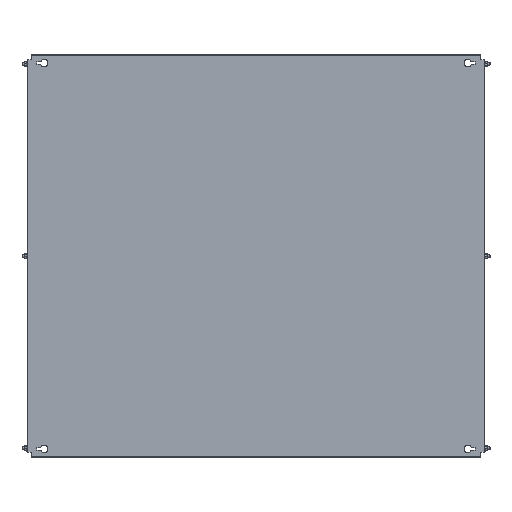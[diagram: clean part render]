
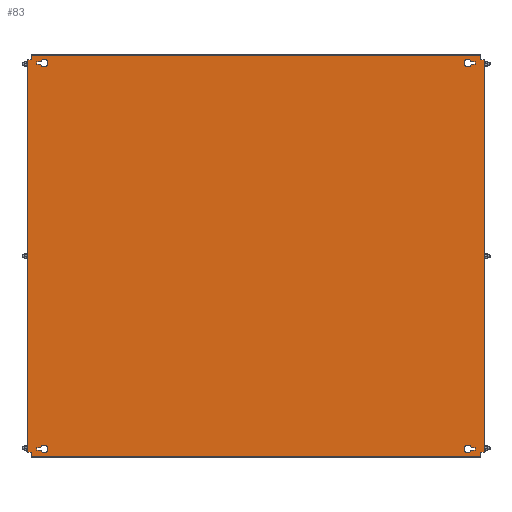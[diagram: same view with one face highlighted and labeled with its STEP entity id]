
A CAD part, top view. The second image highlights one B-rep face of the part: STEP entity #83.
In plain terms, the highlighted planar face has unit normal (0, 0, 1).
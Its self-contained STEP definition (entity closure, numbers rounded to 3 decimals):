
#83 = ADVANCED_FACE('',(#84,#119,#154,#316,#351),#386,.T.);
#84 = FACE_BOUND('',#85,.T.);
#85 = EDGE_LOOP('',(#86,#96,#104,#112));
#86 = ORIENTED_EDGE('',*,*,#87,.T.);
#87 = EDGE_CURVE('',#88,#90,#92,.T.);
#88 = VERTEX_POINT('',#89);
#89 = CARTESIAN_POINT('',(518.393,467.75,2.5));
#90 = VERTEX_POINT('',#91);
#91 = CARTESIAN_POINT('',(528.,467.75,2.5));
#92 = LINE('',#93,#94);
#93 = CARTESIAN_POINT('',(527.,467.75,2.5));
#94 = VECTOR('',#95,1.);
#95 = DIRECTION('',(1.,0.,0.));
#96 = ORIENTED_EDGE('',*,*,#97,.T.);
#97 = EDGE_CURVE('',#90,#98,#100,.T.);
#98 = VERTEX_POINT('',#99);
#99 = CARTESIAN_POINT('',(528.,461.25,2.5));
#100 = LINE('',#101,#102);
#101 = CARTESIAN_POINT('',(528.,467.75,2.5));
#102 = VECTOR('',#103,1.);
#103 = DIRECTION('',(0.,-1.,0.));
#104 = ORIENTED_EDGE('',*,*,#105,.T.);
#105 = EDGE_CURVE('',#98,#106,#108,.T.);
#106 = VERTEX_POINT('',#107);
#107 = CARTESIAN_POINT('',(518.393,461.25,2.5));
#108 = LINE('',#109,#110);
#109 = CARTESIAN_POINT('',(527.,461.25,2.5));
#110 = VECTOR('',#111,1.);
#111 = DIRECTION('',(-1.,0.,0.));
#112 = ORIENTED_EDGE('',*,*,#113,.T.);
#113 = EDGE_CURVE('',#106,#88,#114,.T.);
#114 = CIRCLE('',#115,9.);
#115 = AXIS2_PLACEMENT_3D('',#116,#117,#118);
#116 = CARTESIAN_POINT('',(510.,464.5,2.5));
#117 = DIRECTION('',(0.,0.,-1.));
#118 = DIRECTION('',(1.,0.,0.));
#119 = FACE_BOUND('',#120,.T.);
#120 = EDGE_LOOP('',(#121,#131,#139,#147));
#121 = ORIENTED_EDGE('',*,*,#122,.T.);
#122 = EDGE_CURVE('',#123,#125,#127,.T.);
#123 = VERTEX_POINT('',#124);
#124 = CARTESIAN_POINT('',(-518.393,-467.75,2.5));
#125 = VERTEX_POINT('',#126);
#126 = CARTESIAN_POINT('',(-528.,-467.75,2.5));
#127 = LINE('',#128,#129);
#128 = CARTESIAN_POINT('',(-527.,-467.75,2.5));
#129 = VECTOR('',#130,1.);
#130 = DIRECTION('',(-1.,0.,0.));
#131 = ORIENTED_EDGE('',*,*,#132,.T.);
#132 = EDGE_CURVE('',#125,#133,#135,.T.);
#133 = VERTEX_POINT('',#134);
#134 = CARTESIAN_POINT('',(-528.,-461.25,2.5));
#135 = LINE('',#136,#137);
#136 = CARTESIAN_POINT('',(-528.,-467.75,2.5));
#137 = VECTOR('',#138,1.);
#138 = DIRECTION('',(0.,1.,0.));
#139 = ORIENTED_EDGE('',*,*,#140,.T.);
#140 = EDGE_CURVE('',#133,#141,#143,.T.);
#141 = VERTEX_POINT('',#142);
#142 = CARTESIAN_POINT('',(-518.393,-461.25,2.5));
#143 = LINE('',#144,#145);
#144 = CARTESIAN_POINT('',(-527.,-461.25,2.5));
#145 = VECTOR('',#146,1.);
#146 = DIRECTION('',(1.,-0.,-0.));
#147 = ORIENTED_EDGE('',*,*,#148,.T.);
#148 = EDGE_CURVE('',#141,#123,#149,.T.);
#149 = CIRCLE('',#150,9.);
#150 = AXIS2_PLACEMENT_3D('',#151,#152,#153);
#151 = CARTESIAN_POINT('',(-510.,-464.5,2.5));
#152 = DIRECTION('',(0.,0.,-1.));
#153 = DIRECTION('',(-1.,0.,0.));
#154 = FACE_BOUND('',#155,.T.);
#155 = EDGE_LOOP('',(#156,#166,#174,#182,#190,#198,#206,#214,#222,#230,
    #238,#246,#254,#262,#270,#278,#286,#294,#302,#310));
#156 = ORIENTED_EDGE('',*,*,#157,.F.);
#157 = EDGE_CURVE('',#158,#160,#162,.T.);
#158 = VERTEX_POINT('',#159);
#159 = CARTESIAN_POINT('',(-546.9,472.5,2.5));
#160 = VERTEX_POINT('',#161);
#161 = CARTESIAN_POINT('',(-541.5,472.5,2.5));
#162 = LINE('',#163,#164);
#163 = CARTESIAN_POINT('',(-547.5,472.5,2.5));
#164 = VECTOR('',#165,1.);
#165 = DIRECTION('',(1.,0.,-0.));
#166 = ORIENTED_EDGE('',*,*,#167,.T.);
#167 = EDGE_CURVE('',#158,#168,#170,.T.);
#168 = VERTEX_POINT('',#169);
#169 = CARTESIAN_POINT('',(-550.,472.5,2.5));
#170 = LINE('',#171,#172);
#171 = CARTESIAN_POINT('',(-546.9,472.5,2.5));
#172 = VECTOR('',#173,1.);
#173 = DIRECTION('',(-1.,0.,0.));
#174 = ORIENTED_EDGE('',*,*,#175,.F.);
#175 = EDGE_CURVE('',#176,#168,#178,.T.);
#176 = VERTEX_POINT('',#177);
#177 = CARTESIAN_POINT('',(-550.,-472.5,2.5));
#178 = LINE('',#179,#180);
#179 = CARTESIAN_POINT('',(-550.,-482.,2.5));
#180 = VECTOR('',#181,1.);
#181 = DIRECTION('',(0.,1.,-0.));
#182 = ORIENTED_EDGE('',*,*,#183,.F.);
#183 = EDGE_CURVE('',#184,#176,#186,.T.);
#184 = VERTEX_POINT('',#185);
#185 = CARTESIAN_POINT('',(-546.9,-472.5,2.5));
#186 = LINE('',#187,#188);
#187 = CARTESIAN_POINT('',(-541.5,-472.5,2.5));
#188 = VECTOR('',#189,1.);
#189 = DIRECTION('',(-1.,-0.,-0.));
#190 = ORIENTED_EDGE('',*,*,#191,.T.);
#191 = EDGE_CURVE('',#184,#192,#194,.T.);
#192 = VERTEX_POINT('',#193);
#193 = CARTESIAN_POINT('',(-541.5,-472.5,2.5));
#194 = LINE('',#195,#196);
#195 = CARTESIAN_POINT('',(-547.5,-472.5,2.5));
#196 = VECTOR('',#197,1.);
#197 = DIRECTION('',(1.,0.,-0.));
#198 = ORIENTED_EDGE('',*,*,#199,.T.);
#199 = EDGE_CURVE('',#192,#200,#202,.T.);
#200 = VERTEX_POINT('',#201);
#201 = CARTESIAN_POINT('',(-541.5,-481.4,2.5));
#202 = LINE('',#203,#204);
#203 = CARTESIAN_POINT('',(-541.5,482.,2.5));
#204 = VECTOR('',#205,1.);
#205 = DIRECTION('',(0.,-1.,0.));
#206 = ORIENTED_EDGE('',*,*,#207,.T.);
#207 = EDGE_CURVE('',#200,#208,#210,.T.);
#208 = VERTEX_POINT('',#209);
#209 = CARTESIAN_POINT('',(-541.5,-482.,2.5));
#210 = LINE('',#211,#212);
#211 = CARTESIAN_POINT('',(-541.5,-481.4,2.5));
#212 = VECTOR('',#213,1.);
#213 = DIRECTION('',(-0.,-1.,-0.));
#214 = ORIENTED_EDGE('',*,*,#215,.T.);
#215 = EDGE_CURVE('',#208,#216,#218,.T.);
#216 = VERTEX_POINT('',#217);
#217 = CARTESIAN_POINT('',(541.5,-482.,2.5));
#218 = LINE('',#219,#220);
#219 = CARTESIAN_POINT('',(541.5,-482.,2.5));
#220 = VECTOR('',#221,1.);
#221 = DIRECTION('',(1.,0.,0.));
#222 = ORIENTED_EDGE('',*,*,#223,.F.);
#223 = EDGE_CURVE('',#224,#216,#226,.T.);
#224 = VERTEX_POINT('',#225);
#225 = CARTESIAN_POINT('',(541.5,-481.4,2.5));
#226 = LINE('',#227,#228);
#227 = CARTESIAN_POINT('',(541.5,-482.,2.5));
#228 = VECTOR('',#229,1.);
#229 = DIRECTION('',(0.,-1.,0.));
#230 = ORIENTED_EDGE('',*,*,#231,.T.);
#231 = EDGE_CURVE('',#224,#232,#234,.T.);
#232 = VERTEX_POINT('',#233);
#233 = CARTESIAN_POINT('',(541.5,-472.5,2.5));
#234 = LINE('',#235,#236);
#235 = CARTESIAN_POINT('',(541.5,482.,2.5));
#236 = VECTOR('',#237,1.);
#237 = DIRECTION('',(0.,1.,-0.));
#238 = ORIENTED_EDGE('',*,*,#239,.F.);
#239 = EDGE_CURVE('',#240,#232,#242,.T.);
#240 = VERTEX_POINT('',#241);
#241 = CARTESIAN_POINT('',(546.9,-472.5,2.5));
#242 = LINE('',#243,#244);
#243 = CARTESIAN_POINT('',(547.5,-472.5,2.5));
#244 = VECTOR('',#245,1.);
#245 = DIRECTION('',(-1.,0.,-0.));
#246 = ORIENTED_EDGE('',*,*,#247,.T.);
#247 = EDGE_CURVE('',#240,#248,#250,.T.);
#248 = VERTEX_POINT('',#249);
#249 = CARTESIAN_POINT('',(550.,-472.5,2.5));
#250 = LINE('',#251,#252);
#251 = CARTESIAN_POINT('',(546.9,-472.5,2.5));
#252 = VECTOR('',#253,1.);
#253 = DIRECTION('',(1.,0.,0.));
#254 = ORIENTED_EDGE('',*,*,#255,.F.);
#255 = EDGE_CURVE('',#256,#248,#258,.T.);
#256 = VERTEX_POINT('',#257);
#257 = CARTESIAN_POINT('',(550.,472.5,2.5));
#258 = LINE('',#259,#260);
#259 = CARTESIAN_POINT('',(550.,-482.,2.5));
#260 = VECTOR('',#261,1.);
#261 = DIRECTION('',(0.,-1.,-0.));
#262 = ORIENTED_EDGE('',*,*,#263,.F.);
#263 = EDGE_CURVE('',#264,#256,#266,.T.);
#264 = VERTEX_POINT('',#265);
#265 = CARTESIAN_POINT('',(546.9,472.5,2.5));
#266 = LINE('',#267,#268);
#267 = CARTESIAN_POINT('',(-541.5,472.5,2.5));
#268 = VECTOR('',#269,1.);
#269 = DIRECTION('',(1.,-0.,-0.));
#270 = ORIENTED_EDGE('',*,*,#271,.T.);
#271 = EDGE_CURVE('',#264,#272,#274,.T.);
#272 = VERTEX_POINT('',#273);
#273 = CARTESIAN_POINT('',(541.5,472.5,2.5));
#274 = LINE('',#275,#276);
#275 = CARTESIAN_POINT('',(547.5,472.5,2.5));
#276 = VECTOR('',#277,1.);
#277 = DIRECTION('',(-1.,0.,-0.));
#278 = ORIENTED_EDGE('',*,*,#279,.T.);
#279 = EDGE_CURVE('',#272,#280,#282,.T.);
#280 = VERTEX_POINT('',#281);
#281 = CARTESIAN_POINT('',(541.5,481.4,2.5));
#282 = LINE('',#283,#284);
#283 = CARTESIAN_POINT('',(541.5,482.,2.5));
#284 = VECTOR('',#285,1.);
#285 = DIRECTION('',(0.,1.,-0.));
#286 = ORIENTED_EDGE('',*,*,#287,.T.);
#287 = EDGE_CURVE('',#280,#288,#290,.T.);
#288 = VERTEX_POINT('',#289);
#289 = CARTESIAN_POINT('',(541.5,482.,2.5));
#290 = LINE('',#291,#292);
#291 = CARTESIAN_POINT('',(541.5,481.4,2.5));
#292 = VECTOR('',#293,1.);
#293 = DIRECTION('',(-0.,1.,-0.));
#294 = ORIENTED_EDGE('',*,*,#295,.T.);
#295 = EDGE_CURVE('',#288,#296,#298,.T.);
#296 = VERTEX_POINT('',#297);
#297 = CARTESIAN_POINT('',(-541.5,482.,2.5));
#298 = LINE('',#299,#300);
#299 = CARTESIAN_POINT('',(-541.5,482.,2.5));
#300 = VECTOR('',#301,1.);
#301 = DIRECTION('',(-1.,0.,0.));
#302 = ORIENTED_EDGE('',*,*,#303,.F.);
#303 = EDGE_CURVE('',#304,#296,#306,.T.);
#304 = VERTEX_POINT('',#305);
#305 = CARTESIAN_POINT('',(-541.5,481.4,2.5));
#306 = LINE('',#307,#308);
#307 = CARTESIAN_POINT('',(-541.5,-482.,2.5));
#308 = VECTOR('',#309,1.);
#309 = DIRECTION('',(0.,1.,-0.));
#310 = ORIENTED_EDGE('',*,*,#311,.T.);
#311 = EDGE_CURVE('',#304,#160,#312,.T.);
#312 = LINE('',#313,#314);
#313 = CARTESIAN_POINT('',(-541.5,482.,2.5));
#314 = VECTOR('',#315,1.);
#315 = DIRECTION('',(0.,-1.,0.));
#316 = FACE_BOUND('',#317,.T.);
#317 = EDGE_LOOP('',(#318,#328,#336,#344));
#318 = ORIENTED_EDGE('',*,*,#319,.F.);
#319 = EDGE_CURVE('',#320,#322,#324,.T.);
#320 = VERTEX_POINT('',#321);
#321 = CARTESIAN_POINT('',(528.,-461.25,2.5));
#322 = VERTEX_POINT('',#323);
#323 = CARTESIAN_POINT('',(518.393,-461.25,2.5));
#324 = LINE('',#325,#326);
#325 = CARTESIAN_POINT('',(518.393,-461.25,2.5));
#326 = VECTOR('',#327,1.);
#327 = DIRECTION('',(-1.,0.,0.));
#328 = ORIENTED_EDGE('',*,*,#329,.F.);
#329 = EDGE_CURVE('',#330,#320,#332,.T.);
#330 = VERTEX_POINT('',#331);
#331 = CARTESIAN_POINT('',(528.,-467.75,2.5));
#332 = LINE('',#333,#334);
#333 = CARTESIAN_POINT('',(528.,-461.25,2.5));
#334 = VECTOR('',#335,1.);
#335 = DIRECTION('',(0.,1.,0.));
#336 = ORIENTED_EDGE('',*,*,#337,.F.);
#337 = EDGE_CURVE('',#338,#330,#340,.T.);
#338 = VERTEX_POINT('',#339);
#339 = CARTESIAN_POINT('',(518.393,-467.75,2.5));
#340 = LINE('',#341,#342);
#341 = CARTESIAN_POINT('',(527.,-467.75,2.5));
#342 = VECTOR('',#343,1.);
#343 = DIRECTION('',(1.,0.,0.));
#344 = ORIENTED_EDGE('',*,*,#345,.F.);
#345 = EDGE_CURVE('',#322,#338,#346,.T.);
#346 = CIRCLE('',#347,9.);
#347 = AXIS2_PLACEMENT_3D('',#348,#349,#350);
#348 = CARTESIAN_POINT('',(510.,-464.5,2.5));
#349 = DIRECTION('',(0.,-0.,1.));
#350 = DIRECTION('',(1.,0.,0.));
#351 = FACE_BOUND('',#352,.T.);
#352 = EDGE_LOOP('',(#353,#363,#371,#379));
#353 = ORIENTED_EDGE('',*,*,#354,.F.);
#354 = EDGE_CURVE('',#355,#357,#359,.T.);
#355 = VERTEX_POINT('',#356);
#356 = CARTESIAN_POINT('',(-528.,461.25,2.5));
#357 = VERTEX_POINT('',#358);
#358 = CARTESIAN_POINT('',(-518.393,461.25,2.5));
#359 = LINE('',#360,#361);
#360 = CARTESIAN_POINT('',(-518.393,461.25,2.5));
#361 = VECTOR('',#362,1.);
#362 = DIRECTION('',(1.,0.,0.));
#363 = ORIENTED_EDGE('',*,*,#364,.F.);
#364 = EDGE_CURVE('',#365,#355,#367,.T.);
#365 = VERTEX_POINT('',#366);
#366 = CARTESIAN_POINT('',(-528.,467.75,2.5));
#367 = LINE('',#368,#369);
#368 = CARTESIAN_POINT('',(-528.,461.25,2.5));
#369 = VECTOR('',#370,1.);
#370 = DIRECTION('',(0.,-1.,0.));
#371 = ORIENTED_EDGE('',*,*,#372,.F.);
#372 = EDGE_CURVE('',#373,#365,#375,.T.);
#373 = VERTEX_POINT('',#374);
#374 = CARTESIAN_POINT('',(-518.393,467.75,2.5));
#375 = LINE('',#376,#377);
#376 = CARTESIAN_POINT('',(-527.,467.75,2.5));
#377 = VECTOR('',#378,1.);
#378 = DIRECTION('',(-1.,0.,0.));
#379 = ORIENTED_EDGE('',*,*,#380,.F.);
#380 = EDGE_CURVE('',#357,#373,#381,.T.);
#381 = CIRCLE('',#382,9.);
#382 = AXIS2_PLACEMENT_3D('',#383,#384,#385);
#383 = CARTESIAN_POINT('',(-510.,464.5,2.5));
#384 = DIRECTION('',(0.,-0.,1.));
#385 = DIRECTION('',(-1.,0.,0.));
#386 = PLANE('',#387);
#387 = AXIS2_PLACEMENT_3D('',#388,#389,#390);
#388 = CARTESIAN_POINT('',(-541.5,-482.,2.5));
#389 = DIRECTION('',(-0.,0.,1.));
#390 = DIRECTION('',(1.,0.,0.));
